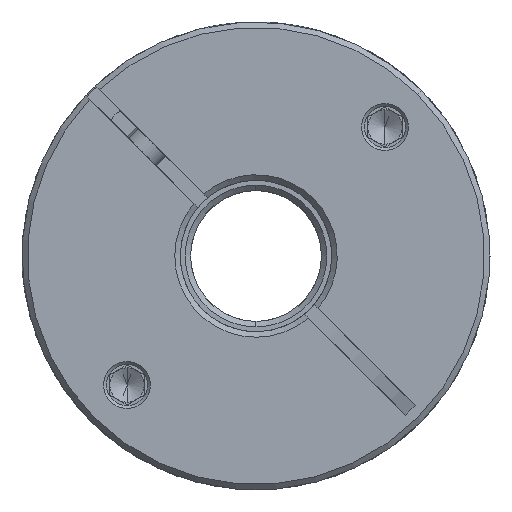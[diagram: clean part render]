
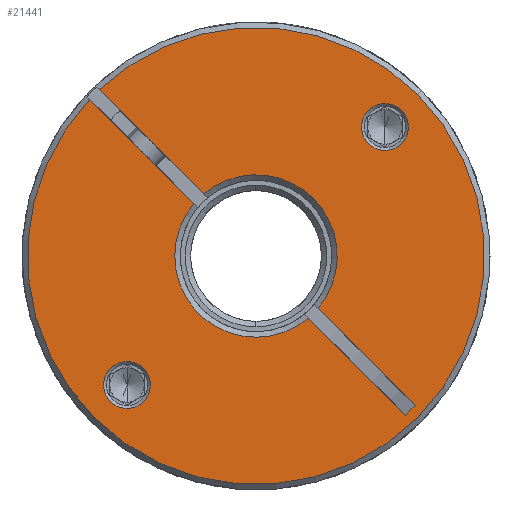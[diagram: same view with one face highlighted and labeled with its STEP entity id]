
A CAD part, front view. The second image highlights one B-rep face of the part: STEP entity #21441.
In plain terms, the highlighted planar face has unit normal (0, -1, 0).
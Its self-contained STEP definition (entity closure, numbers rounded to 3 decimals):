
#29 = DIRECTION ( 'NONE',  ( 0.707, 0., 0.707 ) ) ;
#449 = CARTESIAN_POINT ( 'NONE',  ( 5.609, -67.045, 76.344 ) ) ;
#595 = DIRECTION ( 'NONE',  ( -0.707, 0., -0.707 ) ) ;
#675 = AXIS2_PLACEMENT_3D ( 'NONE', #14773, #1619, #6618 ) ;
#714 = DIRECTION ( 'NONE',  ( 0.707, 0., 0.707 ) ) ;
#748 = VERTEX_POINT ( 'NONE', #8982 ) ;
#867 = ORIENTED_EDGE ( 'NONE', *, *, #19004, .T. ) ;
#1264 = CIRCLE ( 'NONE', #4301, 3.4 ) ;
#1292 = AXIS2_PLACEMENT_3D ( 'NONE', #21328, #11427, #13088 ) ;
#1295 = CIRCLE ( 'NONE', #13771, 33.2 ) ;
#1319 = VERTEX_POINT ( 'NONE', #2756 ) ;
#1383 = ORIENTED_EDGE ( 'NONE', *, *, #17230, .T. ) ;
#1619 = DIRECTION ( 'NONE',  ( 0., 1., 0. ) ) ;
#1724 = ORIENTED_EDGE ( 'NONE', *, *, #6361, .T. ) ;
#1779 = EDGE_CURVE ( 'NONE', #1319, #9492, #1264, .T. ) ;
#1978 = CIRCLE ( 'NONE', #10427, 3.4 ) ;
#1998 = CARTESIAN_POINT ( 'NONE',  ( 16.003, -67.045, 86.738 ) ) ;
#2025 = VERTEX_POINT ( 'NONE', #16013 ) ;
#2348 = VERTEX_POINT ( 'NONE', #15279 ) ;
#2600 = DIRECTION ( 'NONE',  ( 0., -1., 0. ) ) ;
#2756 = CARTESIAN_POINT ( 'NONE',  ( 18.407, -67.045, 89.142 ) ) ;
#3046 = CARTESIAN_POINT ( 'NONE',  ( -2.735, -67.045, 68. ) ) ;
#3050 = ORIENTED_EDGE ( 'NONE', *, *, #9701, .T. ) ;
#3156 = LINE ( 'NONE', #19303, #17876 ) ;
#3342 = ORIENTED_EDGE ( 'NONE', *, *, #14652, .T. ) ;
#3790 = VERTEX_POINT ( 'NONE', #20605 ) ;
#3926 = FACE_OUTER_BOUND ( 'NONE', #6294, .T. ) ;
#4000 = CIRCLE ( 'NONE', #11711, 33.2 ) ;
#4001 = DIRECTION ( 'NONE',  ( 0., -1., 0. ) ) ;
#4068 = AXIS2_PLACEMENT_3D ( 'NONE', #14444, #4336, #4484 ) ;
#4076 = CARTESIAN_POINT ( 'NONE',  ( -3.442, -67.045, 67.293 ) ) ;
#4160 = CARTESIAN_POINT ( 'NONE',  ( -2.028, -67.045, 68.707 ) ) ;
#4226 = AXIS2_PLACEMENT_3D ( 'NONE', #1998, #15151, #16745 ) ;
#4301 = AXIS2_PLACEMENT_3D ( 'NONE', #4810, #14897, #29 ) ;
#4326 = VERTEX_POINT ( 'NONE', #8734 ) ;
#4336 = DIRECTION ( 'NONE',  ( 0., 1., 0. ) ) ;
#4408 = LINE ( 'NONE', #4076, #15778 ) ;
#4441 = CARTESIAN_POINT ( 'NONE',  ( -2.735, -67.045, 68. ) ) ;
#4484 = DIRECTION ( 'NONE',  ( 0.707, 0., 0.707 ) ) ;
#4486 = VECTOR ( 'NONE', #5960, 1000. ) ;
#4703 = AXIS2_PLACEMENT_3D ( 'NONE', #4441, #15841, #14256 ) ;
#4810 = CARTESIAN_POINT ( 'NONE',  ( 16.003, -67.045, 86.738 ) ) ;
#5026 = EDGE_LOOP ( 'NONE', ( #5837, #14004 ) ) ;
#5452 = FACE_BOUND ( 'NONE', #5026, .T. ) ;
#5837 = ORIENTED_EDGE ( 'NONE', *, *, #1779, .T. ) ;
#5909 = CARTESIAN_POINT ( 'NONE',  ( -21.473, -67.045, 49.262 ) ) ;
#5960 = DIRECTION ( 'NONE',  ( 0.707, 0., -0.707 ) ) ;
#6294 = EDGE_LOOP ( 'NONE', ( #7406, #867, #1724, #11149, #19366, #3050, #6584, #12105, #21435, #8579, #3342 ) ) ;
#6336 = AXIS2_PLACEMENT_3D ( 'NONE', #12529, #2600, #12379 ) ;
#6361 = EDGE_CURVE ( 'NONE', #2348, #13008, #12811, .T. ) ;
#6584 = ORIENTED_EDGE ( 'NONE', *, *, #8386, .T. ) ;
#6618 = DIRECTION ( 'NONE',  ( 0.707, 0., 0.707 ) ) ;
#6718 = DIRECTION ( 'NONE',  ( 0.707, 0., 0.707 ) ) ;
#7349 = LINE ( 'NONE', #12247, #17376 ) ;
#7406 = ORIENTED_EDGE ( 'NONE', *, *, #10619, .F. ) ;
#7473 = DIRECTION ( 'NONE',  ( 0.707, 0., -0.707 ) ) ;
#7482 = CARTESIAN_POINT ( 'NONE',  ( 20.741, -67.045, 91.476 ) ) ;
#8146 = AXIS2_PLACEMENT_3D ( 'NONE', #3046, #19691, #14860 ) ;
#8386 = EDGE_CURVE ( 'NONE', #12018, #2025, #14257, .T. ) ;
#8570 = CARTESIAN_POINT ( 'NONE',  ( -23.878, -67.045, 46.858 ) ) ;
#8579 = ORIENTED_EDGE ( 'NONE', *, *, #9894, .F. ) ;
#8703 = EDGE_CURVE ( 'NONE', #9113, #13045, #7349, .T. ) ;
#8734 = CARTESIAN_POINT ( 'NONE',  ( 4.872, -67.045, 58.979 ) ) ;
#8791 = FACE_BOUND ( 'NONE', #13174, .T. ) ;
#8952 = LINE ( 'NONE', #4160, #13380 ) ;
#8982 = CARTESIAN_POINT ( 'NONE',  ( -19.069, -67.045, 51.666 ) ) ;
#9002 = CARTESIAN_POINT ( 'NONE',  ( -11.756, -67.045, 75.607 ) ) ;
#9113 = VERTEX_POINT ( 'NONE', #12265 ) ;
#9163 = DIRECTION ( 'NONE',  ( 0.707, 0., 0.707 ) ) ;
#9239 = PLANE ( 'NONE',  #6336 ) ;
#9458 = CARTESIAN_POINT ( 'NONE',  ( -10.342, -67.045, 77.021 ) ) ;
#9492 = VERTEX_POINT ( 'NONE', #10478 ) ;
#9533 = CARTESIAN_POINT ( 'NONE',  ( -25.493, -67.045, 92.172 ) ) ;
#9700 = VERTEX_POINT ( 'NONE', #9458 ) ;
#9701 = EDGE_CURVE ( 'NONE', #9700, #12018, #14267, .T. ) ;
#9894 = EDGE_CURVE ( 'NONE', #4326, #13045, #3156, .T. ) ;
#10427 = AXIS2_PLACEMENT_3D ( 'NONE', #5909, #19191, #714 ) ;
#10478 = CARTESIAN_POINT ( 'NONE',  ( 13.599, -67.045, 84.334 ) ) ;
#10619 = EDGE_CURVE ( 'NONE', #3790, #12584, #4408, .T. ) ;
#10776 = CARTESIAN_POINT ( 'NONE',  ( -2.735, -67.045, 68. ) ) ;
#10841 = VERTEX_POINT ( 'NONE', #9533 ) ;
#10905 = EDGE_CURVE ( 'NONE', #748, #16361, #19160, .T. ) ;
#11149 = ORIENTED_EDGE ( 'NONE', *, *, #15140, .T. ) ;
#11427 = DIRECTION ( 'NONE',  ( 0., 1., 0. ) ) ;
#11711 = AXIS2_PLACEMENT_3D ( 'NONE', #21538, #13229, #6718 ) ;
#11744 = ORIENTED_EDGE ( 'NONE', *, *, #10905, .T. ) ;
#12018 = VERTEX_POINT ( 'NONE', #449 ) ;
#12105 = ORIENTED_EDGE ( 'NONE', *, *, #19365, .T. ) ;
#12247 = CARTESIAN_POINT ( 'NONE',  ( 18.988, -67.045, 44.862 ) ) ;
#12265 = CARTESIAN_POINT ( 'NONE',  ( 20.402, -67.045, 46.277 ) ) ;
#12378 = DIRECTION ( 'NONE',  ( 0.707, 0., -0.707 ) ) ;
#12379 = DIRECTION ( 'NONE',  ( 0.707, 0., 0.707 ) ) ;
#12529 = CARTESIAN_POINT ( 'NONE',  ( -2.735, -67.045, 68. ) ) ;
#12584 = VERTEX_POINT ( 'NONE', #9002 ) ;
#12768 = LINE ( 'NONE', #20993, #4486 ) ;
#12778 = DIRECTION ( 'NONE',  ( 0.707, 0., -0.707 ) ) ;
#12811 = CIRCLE ( 'NONE', #4703, 33.2 ) ;
#13008 = VERTEX_POINT ( 'NONE', #7482 ) ;
#13045 = VERTEX_POINT ( 'NONE', #20776 ) ;
#13088 = DIRECTION ( 'NONE',  ( 0.707, 0., 0.707 ) ) ;
#13174 = EDGE_LOOP ( 'NONE', ( #11744, #1383 ) ) ;
#13229 = DIRECTION ( 'NONE',  ( 0., -1., 0. ) ) ;
#13380 = VECTOR ( 'NONE', #7473, 1000. ) ;
#13771 = AXIS2_PLACEMENT_3D ( 'NONE', #10776, #4001, #9163 ) ;
#14004 = ORIENTED_EDGE ( 'NONE', *, *, #19100, .T. ) ;
#14256 = DIRECTION ( 'NONE',  ( 0.707, 0., 0.707 ) ) ;
#14257 = CIRCLE ( 'NONE', #675, 11.8 ) ;
#14267 = CIRCLE ( 'NONE', #4068, 11.8 ) ;
#14444 = CARTESIAN_POINT ( 'NONE',  ( -2.735, -67.045, 68. ) ) ;
#14652 = EDGE_CURVE ( 'NONE', #4326, #12584, #20094, .T. ) ;
#14773 = CARTESIAN_POINT ( 'NONE',  ( -2.735, -67.045, 68. ) ) ;
#14860 = DIRECTION ( 'NONE',  ( 0.707, 0., 0.707 ) ) ;
#14897 = DIRECTION ( 'NONE',  ( 0., 1., 0. ) ) ;
#15140 = EDGE_CURVE ( 'NONE', #13008, #10841, #1295, .T. ) ;
#15151 = DIRECTION ( 'NONE',  ( 0., 1., 0. ) ) ;
#15279 = CARTESIAN_POINT ( 'NONE',  ( -26.211, -67.045, 44.524 ) ) ;
#15778 = VECTOR ( 'NONE', #12378, 1000. ) ;
#15841 = DIRECTION ( 'NONE',  ( 0., -1., 0. ) ) ;
#16013 = CARTESIAN_POINT ( 'NONE',  ( 6.286, -67.045, 60.393 ) ) ;
#16361 = VERTEX_POINT ( 'NONE', #8570 ) ;
#16745 = DIRECTION ( 'NONE',  ( 0.707, 0., 0.707 ) ) ;
#16855 = EDGE_CURVE ( 'NONE', #10841, #9700, #8952, .T. ) ;
#17230 = EDGE_CURVE ( 'NONE', #16361, #748, #1978, .T. ) ;
#17376 = VECTOR ( 'NONE', #595, 1000. ) ;
#17876 = VECTOR ( 'NONE', #12778, 1000. ) ;
#17924 = CIRCLE ( 'NONE', #4226, 3.4 ) ;
#19004 = EDGE_CURVE ( 'NONE', #3790, #2348, #4000, .T. ) ;
#19100 = EDGE_CURVE ( 'NONE', #9492, #1319, #17924, .T. ) ;
#19160 = CIRCLE ( 'NONE', #1292, 3.4 ) ;
#19191 = DIRECTION ( 'NONE',  ( 0., 1., 0. ) ) ;
#19303 = CARTESIAN_POINT ( 'NONE',  ( -3.442, -67.045, 67.293 ) ) ;
#19365 = EDGE_CURVE ( 'NONE', #2025, #9113, #12768, .T. ) ;
#19366 = ORIENTED_EDGE ( 'NONE', *, *, #16855, .T. ) ;
#19691 = DIRECTION ( 'NONE',  ( 0., 1., 0. ) ) ;
#20094 = CIRCLE ( 'NONE', #8146, 11.8 ) ;
#20605 = CARTESIAN_POINT ( 'NONE',  ( -26.908, -67.045, 90.758 ) ) ;
#20776 = CARTESIAN_POINT ( 'NONE',  ( 18.988, -67.045, 44.862 ) ) ;
#20993 = CARTESIAN_POINT ( 'NONE',  ( -2.028, -67.045, 68.707 ) ) ;
#21328 = CARTESIAN_POINT ( 'NONE',  ( -21.473, -67.045, 49.262 ) ) ;
#21435 = ORIENTED_EDGE ( 'NONE', *, *, #8703, .T. ) ;
#21441 = ADVANCED_FACE ( 'NONE', ( #5452, #8791, #3926 ), #9239, .T. ) ;
#21538 = CARTESIAN_POINT ( 'NONE',  ( -2.735, -67.045, 68. ) ) ;
